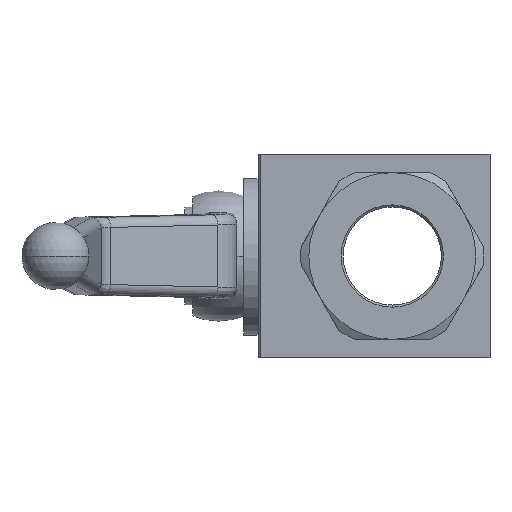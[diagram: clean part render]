
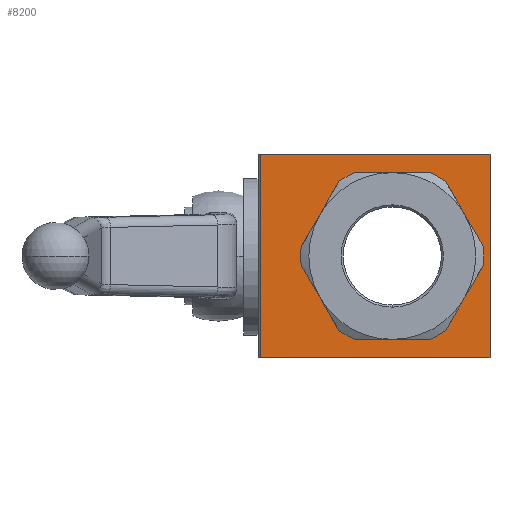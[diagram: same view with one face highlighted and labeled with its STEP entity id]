
A CAD part, left-side view. The second image highlights one B-rep face of the part: STEP entity #8200.
In plain terms, the highlighted planar face has unit normal (-1, 0, 0).
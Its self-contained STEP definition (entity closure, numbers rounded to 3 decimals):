
#62 = EDGE_CURVE ( 'NONE', #635, #5642, #6311, .T. ) ;
#357 = CARTESIAN_POINT ( 'NONE',  ( -31.5, 28.5, 25. ) ) ;
#452 = CARTESIAN_POINT ( 'NONE',  ( -31.5, 28.5, 25. ) ) ;
#531 = LINE ( 'NONE', #3851, #7763 ) ;
#635 = VERTEX_POINT ( 'NONE', #4036 ) ;
#758 = ORIENTED_EDGE ( 'NONE', *, *, #9556, .F. ) ;
#880 = VERTEX_POINT ( 'NONE', #5901 ) ;
#1273 = DIRECTION ( 'NONE',  ( 0., 0., -1. ) ) ;
#1313 = CARTESIAN_POINT ( 'NONE',  ( -31.5, -25., 0. ) ) ;
#2124 = DIRECTION ( 'NONE',  ( -1., 0., 0. ) ) ;
#2471 = EDGE_CURVE ( 'NONE', #10207, #880, #4845, .T. ) ;
#2499 = DIRECTION ( 'NONE',  ( 0., 0., -1. ) ) ;
#2945 = FACE_BOUND ( 'NONE', #6614, .T. ) ;
#2968 = EDGE_CURVE ( 'NONE', #635, #9772, #8964, .T. ) ;
#3097 = DIRECTION ( 'NONE',  ( -1., 0., 0. ) ) ;
#3141 = ORIENTED_EDGE ( 'NONE', *, *, #2471, .F. ) ;
#3392 = ORIENTED_EDGE ( 'NONE', *, *, #2968, .T. ) ;
#3556 = CARTESIAN_POINT ( 'NONE',  ( -31.5, 28., -25. ) ) ;
#3587 = ORIENTED_EDGE ( 'NONE', *, *, #6540, .T. ) ;
#3791 = CARTESIAN_POINT ( 'NONE',  ( -31.5, -28.5, 25. ) ) ;
#3851 = CARTESIAN_POINT ( 'NONE',  ( -31.5, -28.5, 25. ) ) ;
#4036 = CARTESIAN_POINT ( 'NONE',  ( -31.5, 28., 25. ) ) ;
#4154 = VECTOR ( 'NONE', #2499, 1000. ) ;
#4418 = LINE ( 'NONE', #11126, #11075 ) ;
#4772 = DIRECTION ( 'NONE',  ( 0., -1., 0. ) ) ;
#4845 = CIRCLE ( 'NONE', #5035, 20.5 ) ;
#5001 = ORIENTED_EDGE ( 'NONE', *, *, #5497, .F. ) ;
#5035 = AXIS2_PLACEMENT_3D ( 'NONE', #7536, #2124, #8450 ) ;
#5489 = ORIENTED_EDGE ( 'NONE', *, *, #62, .F. ) ;
#5497 = EDGE_CURVE ( 'NONE', #5642, #8180, #531, .T. ) ;
#5542 = CIRCLE ( 'NONE', #10627, 20.5 ) ;
#5642 = VERTEX_POINT ( 'NONE', #3791 ) ;
#5901 = CARTESIAN_POINT ( 'NONE',  ( -31.5, 16., 0. ) ) ;
#6311 = LINE ( 'NONE', #452, #8760 ) ;
#6470 = AXIS2_PLACEMENT_3D ( 'NONE', #357, #6724, #1273 ) ;
#6540 = EDGE_CURVE ( 'NONE', #9772, #8180, #4418, .T. ) ;
#6614 = EDGE_LOOP ( 'NONE', ( #3141, #758 ) ) ;
#6635 = PLANE ( 'NONE',  #6470 ) ;
#6681 = CARTESIAN_POINT ( 'NONE',  ( -31.5, -28.5, -25. ) ) ;
#6724 = DIRECTION ( 'NONE',  ( 1., 0., 0. ) ) ;
#7471 = FACE_OUTER_BOUND ( 'NONE', #8365, .T. ) ;
#7536 = CARTESIAN_POINT ( 'NONE',  ( -31.5, -4.5, 0. ) ) ;
#7763 = VECTOR ( 'NONE', #9286, 1000. ) ;
#7913 = CARTESIAN_POINT ( 'NONE',  ( -31.5, 28., 25. ) ) ;
#8180 = VERTEX_POINT ( 'NONE', #6681 ) ;
#8200 = ADVANCED_FACE ( 'NONE', ( #7471, #2945 ), #6635, .F. ) ;
#8365 = EDGE_LOOP ( 'NONE', ( #5489, #3392, #3587, #5001 ) ) ;
#8450 = DIRECTION ( 'NONE',  ( 0., -1., 0. ) ) ;
#8522 = CARTESIAN_POINT ( 'NONE',  ( -31.5, -4.5, 0. ) ) ;
#8760 = VECTOR ( 'NONE', #10439, 1000. ) ;
#8964 = LINE ( 'NONE', #7913, #4154 ) ;
#9286 = DIRECTION ( 'NONE',  ( 0., 0., -1. ) ) ;
#9458 = DIRECTION ( 'NONE',  ( 0., -1., 0. ) ) ;
#9556 = EDGE_CURVE ( 'NONE', #880, #10207, #5542, .T. ) ;
#9772 = VERTEX_POINT ( 'NONE', #3556 ) ;
#10207 = VERTEX_POINT ( 'NONE', #1313 ) ;
#10439 = DIRECTION ( 'NONE',  ( 0., -1., 0. ) ) ;
#10627 = AXIS2_PLACEMENT_3D ( 'NONE', #8522, #3097, #9458 ) ;
#11075 = VECTOR ( 'NONE', #4772, 1000. ) ;
#11126 = CARTESIAN_POINT ( 'NONE',  ( -31.5, 28.5, -25. ) ) ;
